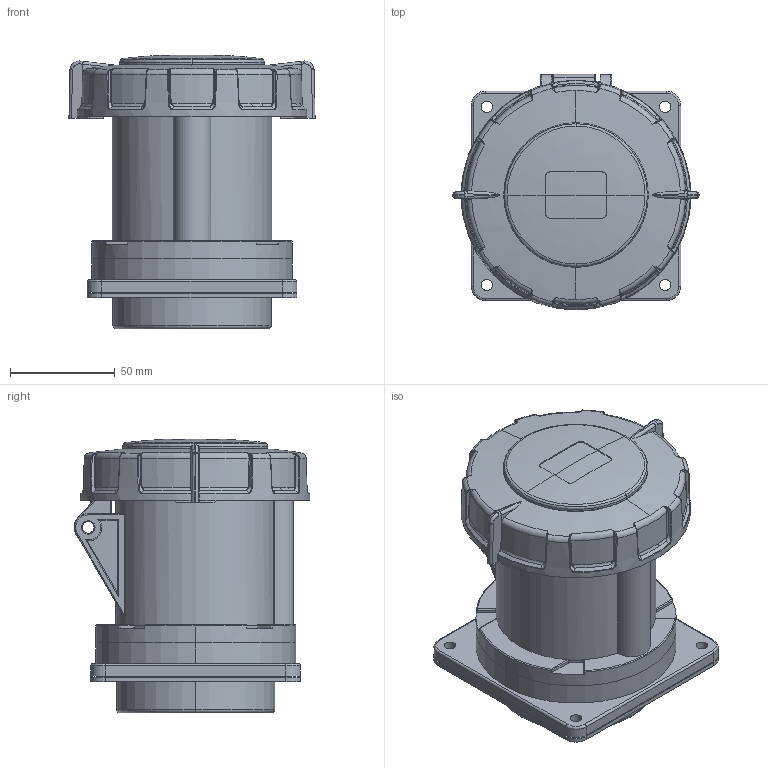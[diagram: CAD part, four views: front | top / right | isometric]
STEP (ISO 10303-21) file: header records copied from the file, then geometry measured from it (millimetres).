
FILE_DESCRIPTION(('FreeCAD Model'),'2;1');
FILE_NAME('Open CASCADE Shape Model','2026-02-04T10:40:22',(''),(''), 'Open CASCADE STEP processor 7.8','FreeCAD','Unknown');
FILE_SCHEMA(('AUTOMOTIVE_DESIGN { 1 0 10303 214 1 1 1 1 }'));
Length unit declared in the file: millimetre
Products named in the file (8): TL3R63643; Tampa parte 1; Base interna; Tampa parte 2; Terminais; Tomada; Proteção terminais; Base externa
Assembly tree (7 placements, depth 2):
  TL3R63643
    Tampa parte 1
    Base interna
    Tampa parte 2
    Terminais
    Tomada
    Proteção terminais
    Base externa
Bounding box: 117.39 x 112.5 x 130.65 mm (x, y, z)
Volume: 583535.4 mm3; surface area: 170176.5 mm2
Topology: 7 solids, 7 shells, 1394 faces, 4029 edges, 2677 vertices
Faces by surface type: plane 730, cylinder 335, bspline 149, torus 107, cone 63, sphere 10
Full cylindrical faces by diameter (mm): 5.5 x4, 18.5 x1, 74 x1, 78 x1, 99.8 x1
Entity records: 53873 total; most frequent: CARTESIAN_POINT 18578, ORIENTED_EDGE 8032, DIRECTION 6533, EDGE_CURVE 4016, VERTEX_POINT 2677, AXIS2_PLACEMENT_3D 2297, LINE 1939, VECTOR 1939
